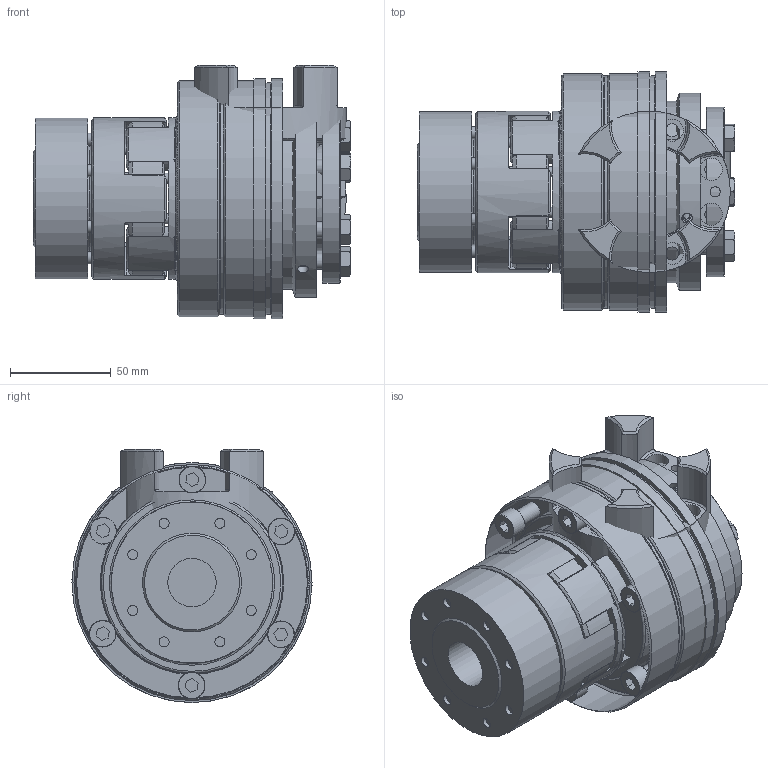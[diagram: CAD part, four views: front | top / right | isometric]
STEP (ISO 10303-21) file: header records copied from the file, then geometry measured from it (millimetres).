
FILE_DESCRIPTION( ( 'Unknown' ), '1' );
FILE_NAME( 'C:/Dokumente und Einstellungen/Sven/Desktop/hp kbk/E-AI/KBK EAI-38-153.stp', 'Unknown', ( 'Unknown' ), ( 'Unknown' ), 'XStep 1.0', 'Unknown', ' ' );
FILE_SCHEMA( ( 'automotive_design' ) );
Length unit declared in the file: millimetre
Products named in the file (19): Assem1; Assem2; Assem3; ball_bearing_-_6011_0_01_0; ball_bearing_-_6011_0_02_0; ball_bearing_-_6011_0_03_0; Zylinderschraube DIN 912_3; Kupplung L-I-300 Grundkörper_0; Konusbuchse 300_0; Stellring 300_0; Druckring 300_0; Flansch 300_0; a_55_0; din_en_24017_m8x30_0; Elastomerflansch 38_0; Zahnkranz_38_Standard_0; KBE 3 - 38_Nabe; KBE3-38_Druckring_0; ISO EN DIN 4762 M6x35
Bounding box: 157.3 x 119 x 125.5 mm (x, y, z)
Volume: 1795048.9 mm3; surface area: 564948.2 mm2
Topology: 53 solids, 53 shells, 1340 faces, 2908 edges, 1821 vertices
Faces by surface type: plane 473, cylinder 428, cone 361, torus 78
Full cylindrical faces by diameter (mm): 2.5 x4, 3.242 x6, 5 x49, 5.2 x6, 6 x18, 6.5 x16, 6.647 x30, 8 x15, 8.2 x12, 8.5 x12, 10 x9, 11 x16, 11.63 x7, 13 x8, 13.2 x12, 24 x2, 25 x4, 38 x4, 40 x2, 46 x2, 52 x4, 53 x2, 55 x7, 66.3 x6, 76 x6, 79.1 x6, 80 x6, 83.5 x2, 84 x2, 88 x2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
Entity records: 13624 total; most frequent: CARTESIAN_POINT 2912, DIRECTION 2312, ORIENTED_EDGE 1714, AXIS2_PLACEMENT_3D 1083, EDGE_CURVE 857, EDGE_LOOP 800, VERTEX_POINT 629, FACE_OUTER_BOUND 616
